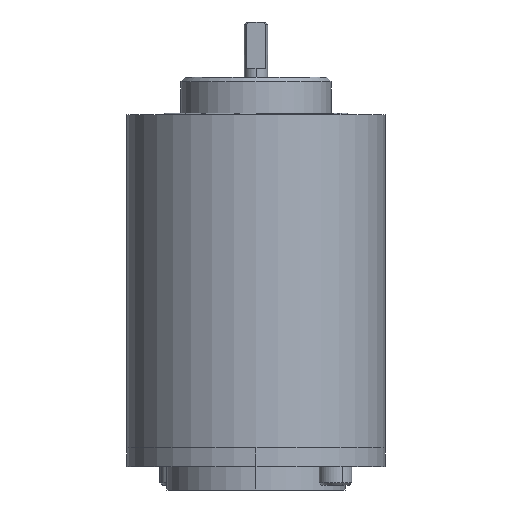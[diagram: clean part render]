
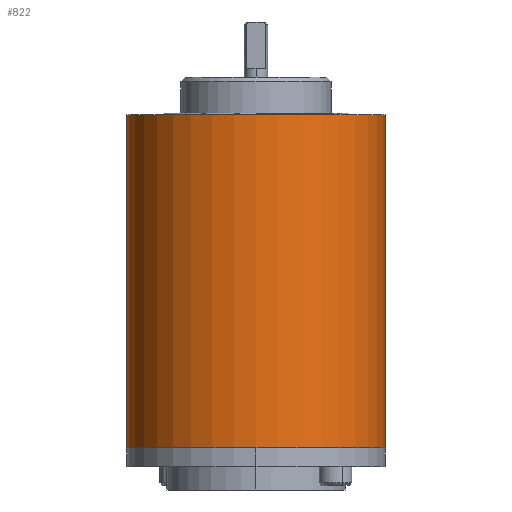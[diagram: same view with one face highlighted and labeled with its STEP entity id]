
A CAD part, front view. The second image highlights one B-rep face of the part: STEP entity #822.
In plain terms, the highlighted cylindrical face has radius 27.5 mm (diameter 55 mm), a partial arc.
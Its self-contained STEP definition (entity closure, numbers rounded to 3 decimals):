
#385 = CARTESIAN_POINT ( 'NONE',  ( -27.5, 0., 79. ) ) ;
#758 = CARTESIAN_POINT ( 'NONE',  ( 0., 0., 71. ) ) ;
#822 = ADVANCED_FACE ( 'NONE', ( #4818 ), #4808, .T. ) ;
#901 = CARTESIAN_POINT ( 'NONE',  ( 27.5, 0., 79. ) ) ;
#1032 = CARTESIAN_POINT ( 'NONE',  ( 0., 0., 79. ) ) ;
#1170 = EDGE_CURVE ( 'NONE', #4187, #4015, #5861, .T. ) ;
#1230 = DIRECTION ( 'NONE',  ( 1., 0., 0. ) ) ;
#1330 = AXIS2_PLACEMENT_3D ( 'NONE', #758, #5214, #5452 ) ;
#1506 = EDGE_CURVE ( 'NONE', #4015, #3361, #6564, .T. ) ;
#1628 = CARTESIAN_POINT ( 'NONE',  ( 27.5, 0., 0. ) ) ;
#2001 = DIRECTION ( 'NONE',  ( 0., 0., -1. ) ) ;
#2491 = AXIS2_PLACEMENT_3D ( 'NONE', #3434, #4779, #1230 ) ;
#2637 = DIRECTION ( 'NONE',  ( -1., 0., 0. ) ) ;
#2639 = EDGE_CURVE ( 'NONE', #4980, #3361, #4724, .T. ) ;
#2841 = CARTESIAN_POINT ( 'NONE',  ( -27.5, 0., 71. ) ) ;
#3219 = EDGE_CURVE ( 'NONE', #4187, #4980, #3609, .T. ) ;
#3235 = EDGE_LOOP ( 'NONE', ( #5906, #3681, #3976, #4629 ) ) ;
#3361 = VERTEX_POINT ( 'NONE', #1628 ) ;
#3434 = CARTESIAN_POINT ( 'NONE',  ( 0., 0., 0. ) ) ;
#3542 = DIRECTION ( 'NONE',  ( 0., 0., -1. ) ) ;
#3609 = LINE ( 'NONE', #385, #3700 ) ;
#3681 = ORIENTED_EDGE ( 'NONE', *, *, #1170, .F. ) ;
#3700 = VECTOR ( 'NONE', #2001, 1000. ) ;
#3976 = ORIENTED_EDGE ( 'NONE', *, *, #3219, .T. ) ;
#4015 = VERTEX_POINT ( 'NONE', #5463 ) ;
#4187 = VERTEX_POINT ( 'NONE', #2841 ) ;
#4423 = AXIS2_PLACEMENT_3D ( 'NONE', #1032, #4612, #2637 ) ;
#4612 = DIRECTION ( 'NONE',  ( 0., 0., -1. ) ) ;
#4629 = ORIENTED_EDGE ( 'NONE', *, *, #2639, .T. ) ;
#4724 = CIRCLE ( 'NONE', #2491, 27.5 ) ;
#4760 = CARTESIAN_POINT ( 'NONE',  ( -27.5, 0., 0. ) ) ;
#4779 = DIRECTION ( 'NONE',  ( 0., 0., 1. ) ) ;
#4808 = CYLINDRICAL_SURFACE ( 'NONE', #4423, 27.5 ) ;
#4818 = FACE_OUTER_BOUND ( 'NONE', #3235, .T. ) ;
#4980 = VERTEX_POINT ( 'NONE', #4760 ) ;
#5145 = VECTOR ( 'NONE', #3542, 1000. ) ;
#5214 = DIRECTION ( 'NONE',  ( 0., 0., 1. ) ) ;
#5452 = DIRECTION ( 'NONE',  ( 1., 0., 0. ) ) ;
#5463 = CARTESIAN_POINT ( 'NONE',  ( 27.5, 0., 71. ) ) ;
#5861 = CIRCLE ( 'NONE', #1330, 27.5 ) ;
#5906 = ORIENTED_EDGE ( 'NONE', *, *, #1506, .F. ) ;
#6564 = LINE ( 'NONE', #901, #5145 ) ;
